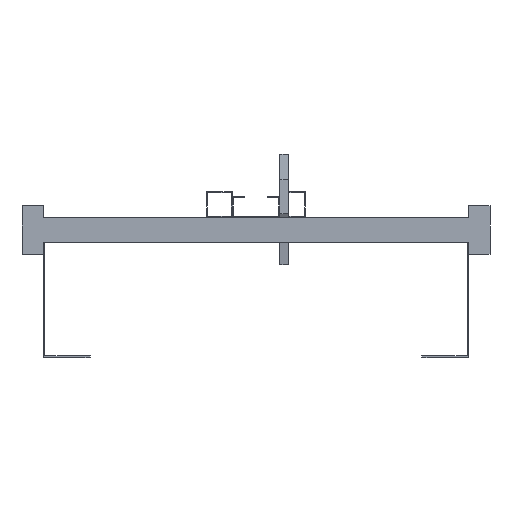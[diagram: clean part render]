
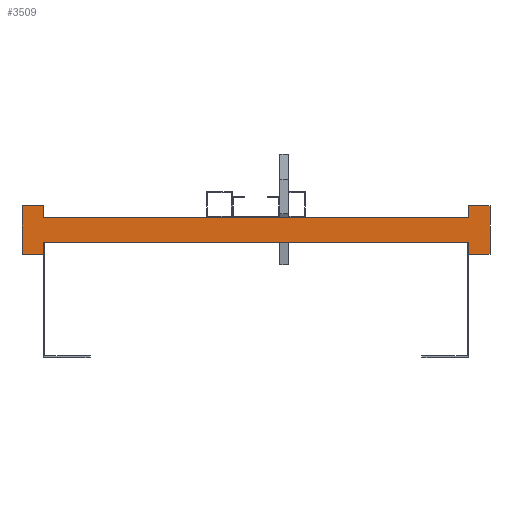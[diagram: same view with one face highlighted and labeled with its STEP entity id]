
A CAD part, front view. The second image highlights one B-rep face of the part: STEP entity #3509.
In plain terms, the highlighted planar face has unit normal (0, -1, 0).
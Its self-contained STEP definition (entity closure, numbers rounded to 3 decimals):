
#1269=DIRECTION('',(0.,0.,1.));
#1270=VECTOR('',#1269,13.5);
#1271=CARTESIAN_POINT('',(250.,0.,-28.5));
#1272=LINE('',#1271,#1270);
#1273=DIRECTION('',(0.,0.,-1.));
#1274=VECTOR('',#1273,13.5);
#1275=CARTESIAN_POINT('',(-250.,0.,-15.));
#1276=LINE('',#1275,#1274);
#1277=DIRECTION('',(-1.,0.,0.));
#1278=VECTOR('',#1277,25.);
#1279=CARTESIAN_POINT('',(-250.,0.,-28.5));
#1280=LINE('',#1279,#1278);
#1281=DIRECTION('',(0.,0.,1.));
#1282=VECTOR('',#1281,57.);
#1283=CARTESIAN_POINT('',(-275.,0.,-28.5));
#1284=LINE('',#1283,#1282);
#1285=DIRECTION('',(1.,0.,0.));
#1286=VECTOR('',#1285,25.);
#1287=CARTESIAN_POINT('',(-275.,0.,28.5));
#1288=LINE('',#1287,#1286);
#1289=DIRECTION('',(0.,0.,-1.));
#1290=VECTOR('',#1289,13.5);
#1291=CARTESIAN_POINT('',(-250.,0.,28.5));
#1292=LINE('',#1291,#1290);
#1293=DIRECTION('',(0.,0.,1.));
#1294=VECTOR('',#1293,13.5);
#1295=CARTESIAN_POINT('',(250.,0.,15.));
#1296=LINE('',#1295,#1294);
#1297=DIRECTION('',(1.,0.,0.));
#1298=VECTOR('',#1297,25.);
#1299=CARTESIAN_POINT('',(250.,0.,28.5));
#1300=LINE('',#1299,#1298);
#1301=DIRECTION('',(0.,0.,-1.));
#1302=VECTOR('',#1301,57.);
#1303=CARTESIAN_POINT('',(275.,0.,28.5));
#1304=LINE('',#1303,#1302);
#1305=DIRECTION('',(-1.,0.,0.));
#1306=VECTOR('',#1305,25.);
#1307=CARTESIAN_POINT('',(275.,0.,-28.5));
#1308=LINE('',#1307,#1306);
#1309=DIRECTION('',(1.,0.,0.));
#1310=VECTOR('',#1309,500.);
#1311=CARTESIAN_POINT('',(-250.,0.,-15.));
#1312=LINE('',#1311,#1310);
#1321=DIRECTION('',(1.,0.,0.));
#1322=VECTOR('',#1321,500.);
#1323=CARTESIAN_POINT('',(-250.,0.,15.));
#1324=LINE('',#1323,#1322);
#1393=CARTESIAN_POINT('',(-275.,0.,28.5));
#1394=CARTESIAN_POINT('',(-250.,0.,28.5));
#1395=VERTEX_POINT('',#1393);
#1396=VERTEX_POINT('',#1394);
#1397=CARTESIAN_POINT('',(-250.,0.,-28.5));
#1398=CARTESIAN_POINT('',(-275.,0.,-28.5));
#1399=VERTEX_POINT('',#1397);
#1400=VERTEX_POINT('',#1398);
#1401=CARTESIAN_POINT('',(275.,0.,28.5));
#1402=CARTESIAN_POINT('',(275.,0.,-28.5));
#1403=VERTEX_POINT('',#1401);
#1404=VERTEX_POINT('',#1402);
#1405=CARTESIAN_POINT('',(250.,0.,-28.5));
#1406=VERTEX_POINT('',#1405);
#1407=CARTESIAN_POINT('',(250.,0.,28.5));
#1408=VERTEX_POINT('',#1407);
#1425=CARTESIAN_POINT('',(-250.,0.,-15.));
#1427=VERTEX_POINT('',#1425);
#1429=CARTESIAN_POINT('',(-250.,0.,15.));
#1431=VERTEX_POINT('',#1429);
#1433=CARTESIAN_POINT('',(250.,0.,-15.));
#1435=VERTEX_POINT('',#1433);
#1437=CARTESIAN_POINT('',(250.,0.,15.));
#1439=VERTEX_POINT('',#1437);
#3484=CARTESIAN_POINT('',(0.,0.,0.));
#3485=DIRECTION('',(0.,1.,0.));
#3486=DIRECTION('',(1.,0.,0.));
#3487=AXIS2_PLACEMENT_3D('',#3484,#3485,#3486);
#3488=PLANE('',#3487);
#3489=ORIENTED_EDGE('',*,*,#2128,.T.);
#3491=ORIENTED_EDGE('',*,*,#3490,.F.);
#3492=ORIENTED_EDGE('',*,*,#1892,.T.);
#3493=ORIENTED_EDGE('',*,*,#2839,.T.);
#3495=ORIENTED_EDGE('',*,*,#3494,.T.);
#3497=ORIENTED_EDGE('',*,*,#3496,.T.);
#3498=ORIENTED_EDGE('',*,*,#1900,.T.);
#3500=ORIENTED_EDGE('',*,*,#3499,.T.);
#3501=ORIENTED_EDGE('',*,*,#2120,.T.);
#3503=ORIENTED_EDGE('',*,*,#3502,.T.);
#3505=ORIENTED_EDGE('',*,*,#3504,.T.);
#3506=ORIENTED_EDGE('',*,*,#3150,.T.);
#3507=EDGE_LOOP('',(#3489,#3491,#3492,#3493,#3495,#3497,#3498,#3500,#3501,#3503,
#3505,#3506));
#3508=FACE_OUTER_BOUND('',#3507,.F.);
#1892=EDGE_CURVE('',#1427,#1399,#1276,.T.);
#1900=EDGE_CURVE('',#1396,#1431,#1292,.T.);
#2120=EDGE_CURVE('',#1439,#1408,#1296,.T.);
#2128=EDGE_CURVE('',#1406,#1435,#1272,.T.);
#2839=EDGE_CURVE('',#1399,#1400,#1280,.T.);
#3150=EDGE_CURVE('',#1404,#1406,#1308,.T.);
#3490=EDGE_CURVE('',#1427,#1435,#1312,.T.);
#3494=EDGE_CURVE('',#1400,#1395,#1284,.T.);
#3496=EDGE_CURVE('',#1395,#1396,#1288,.T.);
#3499=EDGE_CURVE('',#1431,#1439,#1324,.T.);
#3502=EDGE_CURVE('',#1408,#1403,#1300,.T.);
#3504=EDGE_CURVE('',#1403,#1404,#1304,.T.);
#3509=ADVANCED_FACE('',(#3508),#3488,.F.);
